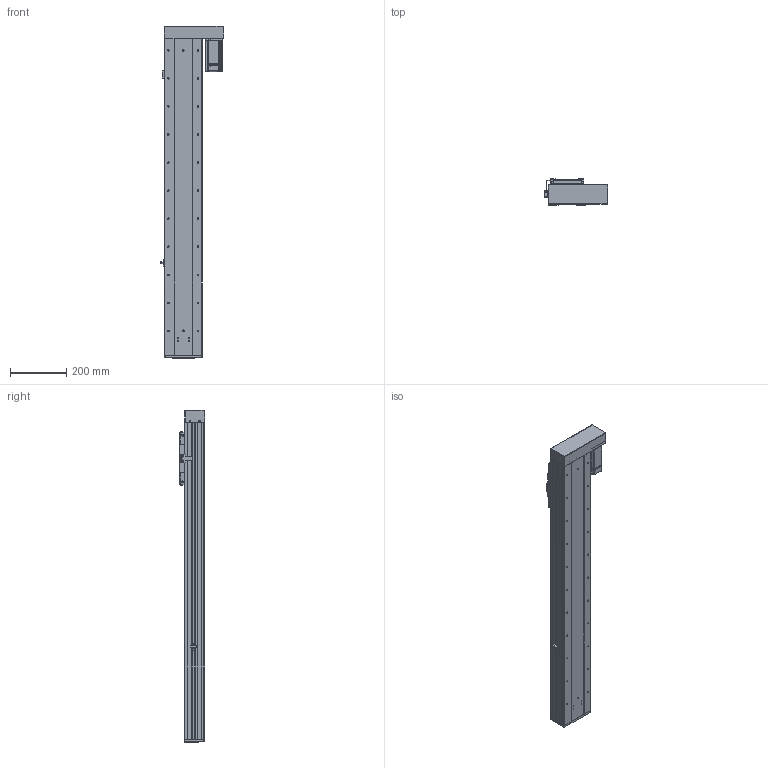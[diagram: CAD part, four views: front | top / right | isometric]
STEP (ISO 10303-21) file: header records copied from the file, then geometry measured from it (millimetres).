
FILE_DESCRIPTION (( 'STEP AP203' ), '1' );
FILE_NAME ('RY140F-L2020-300-RK.SLDASM_850.step', '2021-03-02T08:50:39', ( '盈信电脑' ), ( '东莞市道滘镇水果街19号' ), 'SwSTEP 2.0', 'SolidWorks 2012', '' );
FILE_SCHEMA (( 'CONFIG_CONTROL_DESIGN' ));
Length unit declared in the file: millimetre
Products named in the file (19): RY140F-左右折电机安装板(400W M5); RY140F-转折折电机座（7001）; RY140F-酘衵殏萇儂欶(400W); RY140F-L2020-300-RK.SLDASM_850; RY140F-詩湍揤え; 侐源滅袉蝶; 覜茼ん672; RY140F-672覜茼んえ; 15; 侂狟400W侜督萇儂; RY140F-后盖板(铝件）; RY140F-直连型材铝滑块(16丝杆); RY140F-滅鳥奻裔; RY100F-詩湍揤踡謫; RY140F-詩湍幗謫粣; RY140F-直连型材铝滑块连接座; RY140F-300-RK倰第奻裔啣_850; RY140F-300-RK倰第菁釱_850; RY140F-300-RK蛌殏詩湍_850
Assembly tree (23 placements, depth 3):
  RY140F-L2020-300-RK.SLDASM_850
    RY140F-300-RK倰第菁釱_850
    RY140F-300-RK倰第奻裔啣_850  x2
    RY140F-300-RK蛌殏詩湍_850
    RY140F-直连型材铝滑块连接座
    RY140F-滅鳥奻裔
    RY140F-詩湍幗謫粣
    RY100F-詩湍揤踡謫
    RY140F-直连型材铝滑块(16丝杆)
    RY140F-后盖板(铝件）
    侂狟400W侜督萇儂
      15
    覜茼ん672
    RY140F-672覜茼んえ
    RY140F-詩湍揤え  x2
    侐源滅袉蝶  x4
    RY140F-转折折电机座（7001）
    RY140F-左右折电机安装板(400W M5)
    RY140F-酘衵殏萇儂欶(400W)
Bounding box: 224.7 x 91 x 1184 mm (x, y, z)
Volume: 4533031.4 mm3; surface area: 1620133.5 mm2
Topology: 22 solids, 22 shells, 2073 faces, 5649 edges, 3574 vertices
Faces by surface type: cylinder 1012, plane 789, cone 242, bspline 26, torus 4
Entity records: 65311 total; most frequent: CARTESIAN_POINT 13759, DIRECTION 10498, ORIENTED_EDGE 10154, EDGE_CURVE 5077, AXIS2_PLACEMENT_3D 3777, VERTEX_POINT 3314, VECTOR 2944, LINE 2944
